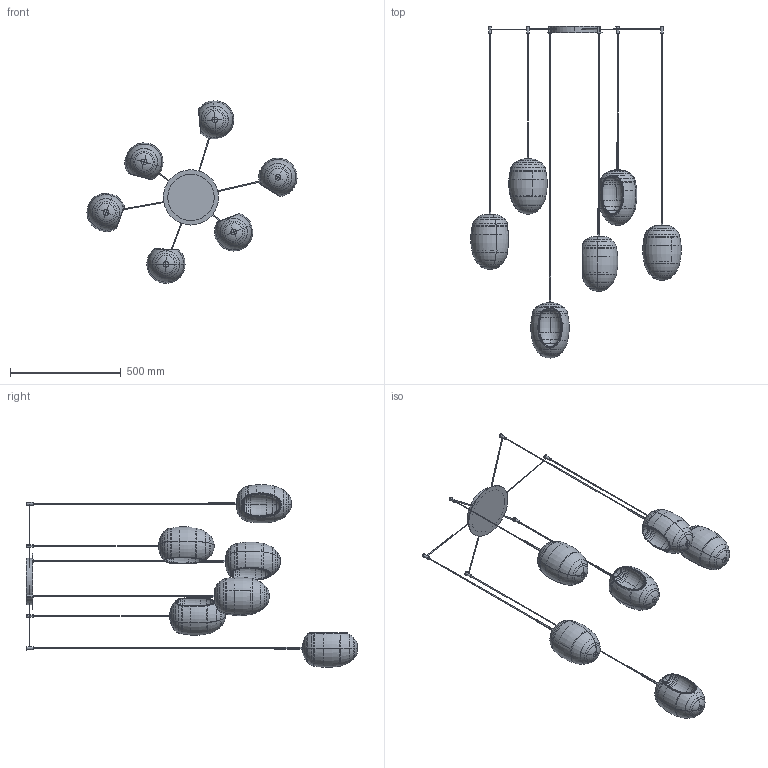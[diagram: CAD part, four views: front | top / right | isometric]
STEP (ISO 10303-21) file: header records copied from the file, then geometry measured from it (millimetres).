
FILE_DESCRIPTION (( 'STEP AP203' ), '1' );
FILE_NAME ('FOS06_6 sospensione.STEP', '2025-05-19T07:11:56', ( '' ), ( '' ), 'SwSTEP 2.0', 'SolidWorks 2022', '' );
FILE_SCHEMA (( 'CONFIG_CONTROL_DESIGN' ));
Length unit declared in the file: millimetre
Products named in the file (16): FOSxx-01-FOS_lampada completa con cavo_H=2150; Cavo x Fos_H=1900; FOSxx-01-FOS_lampada completa con cavo_H=2100; Cavo x Fos_H=1500; Porta lampada definitivo FOS; FOS parte in vetro; Cavo x Fos_H=1850; FOSxx-01-FOS_lampada completa con cavo_H=1500; FOSxx-01-FOS_rosone+cavi_FOS_6 sospensione (diam.220)<A macchina>; Cavo x Fos_H=1800; FOS06_6 sospensione; FOSxx-01-FOS_lampada completa con cavo_H=1850; Cavo x Fos_H=2150; FOSxx-01-FOS_lampada completa con cavo_H=1800; Cavo x Fos_H=2100; FOSxx-01-FOS_lampada completa con cavo_H=1900
Assembly tree (25 placements, depth 3):
  FOS06_6 sospensione
    FOSxx-01-FOS_rosone+cavi_FOS_6 sospensione (diam.220)<A macchina>
    FOSxx-01-FOS_lampada completa con cavo_H=1500
      Porta lampada definitivo FOS
      FOS parte in vetro
      Cavo x Fos_H=1500
    FOSxx-01-FOS_lampada completa con cavo_H=1800
      Porta lampada definitivo FOS
      FOS parte in vetro
      Cavo x Fos_H=1800
    FOSxx-01-FOS_lampada completa con cavo_H=2100
      Porta lampada definitivo FOS
      FOS parte in vetro
      Cavo x Fos_H=2100
    FOSxx-01-FOS_lampada completa con cavo_H=2150
      Porta lampada definitivo FOS
      FOS parte in vetro
      Cavo x Fos_H=2150
    FOSxx-01-FOS_lampada completa con cavo_H=1900
      Porta lampada definitivo FOS
      FOS parte in vetro
      Cavo x Fos_H=1900
    FOSxx-01-FOS_lampada completa con cavo_H=1850
      Porta lampada definitivo FOS
      FOS parte in vetro
      Cavo x Fos_H=1850
Bounding box: 950.32 x 1500.54 x 825.49 mm (x, y, z)
Volume: 3496134 mm3; surface area: 2073053.6 mm2
Topology: 61 solids, 61 shells, 1393 faces, 3314 edges, 2050 vertices
Faces by surface type: torus 486, plane 363, cylinder 286, bspline 132, cone 126
Entity records: 17983 total; most frequent: CARTESIAN_POINT 8619, DIRECTION 1633, ORIENTED_EDGE 1498, EDGE_CURVE 749, AXIS2_PLACEMENT_3D 697, VERTEX_POINT 470, CIRCLE 352, EDGE_LOOP 351
